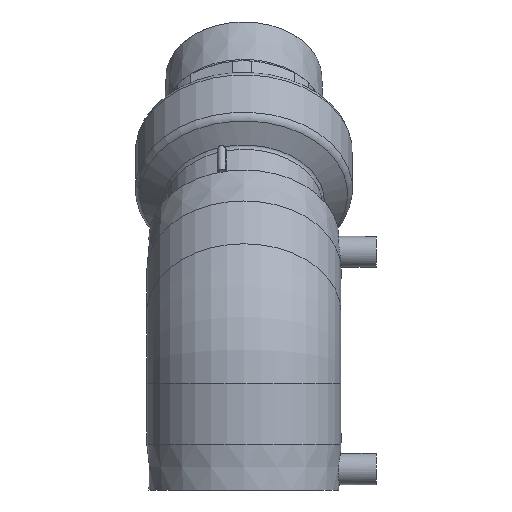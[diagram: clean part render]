
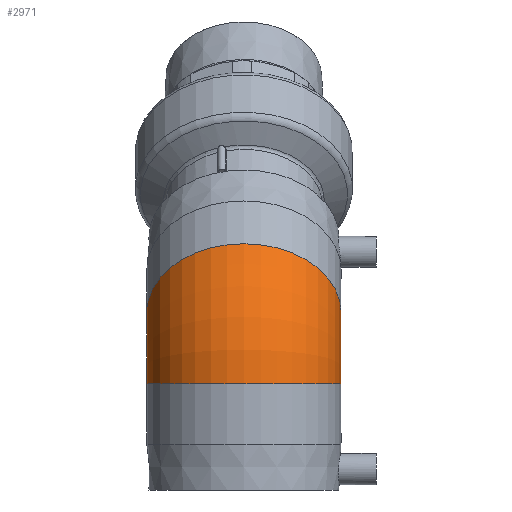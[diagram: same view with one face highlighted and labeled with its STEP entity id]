
A CAD part, left-side view. The second image highlights one B-rep face of the part: STEP entity #2971.
In plain terms, the highlighted toroidal (fillet/blend) face has major radius 48.284 mm and minor radius 46.5 mm.
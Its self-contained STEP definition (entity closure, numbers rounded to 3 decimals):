
#384=TOROIDAL_SURFACE('',#3790,48.284,46.5);
#549=ORIENTED_EDGE('',*,*,#1383,.F.);
#550=ORIENTED_EDGE('',*,*,#1382,.T.);
#1382=EDGE_CURVE('',#1804,#1804,#2095,.F.);
#1383=EDGE_CURVE('',#1805,#1805,#2096,.F.);
#1804=VERTEX_POINT('',#5221);
#1805=VERTEX_POINT('',#5224);
#2095=CIRCLE('',#3789,46.5);
#2096=CIRCLE('',#3791,46.5);
#2311=EDGE_LOOP('',(#549));
#2312=EDGE_LOOP('',(#550));
#2594=FACE_BOUND('',#2311,.T.);
#2595=FACE_BOUND('',#2312,.T.);
#2971=ADVANCED_FACE('',(#2594,#2595),#384,.T.);
#3789=AXIS2_PLACEMENT_3D('',#5220,#4212,#4213);
#3790=AXIS2_PLACEMENT_3D('',#5222,#4214,#4215);
#3791=AXIS2_PLACEMENT_3D('',#5223,#4216,#4217);
#4212=DIRECTION('',(0.,0.,-1.));
#4213=DIRECTION('',(1.,0.,0.));
#4214=DIRECTION('',(0.,1.,0.));
#4215=DIRECTION('',(0.,0.,1.));
#4216=DIRECTION('',(-0.707,0.,-0.707));
#4217=DIRECTION('',(0.707,0.,-0.707));
#5220=CARTESIAN_POINT('',(0.,0.,-20.));
#5221=CARTESIAN_POINT('',(46.5,0.,-20.));
#5222=CARTESIAN_POINT('',(48.284,0.,-20.));
#5223=CARTESIAN_POINT('',(14.142,0.,14.142));
#5224=CARTESIAN_POINT('',(47.023,0.,-18.738));
